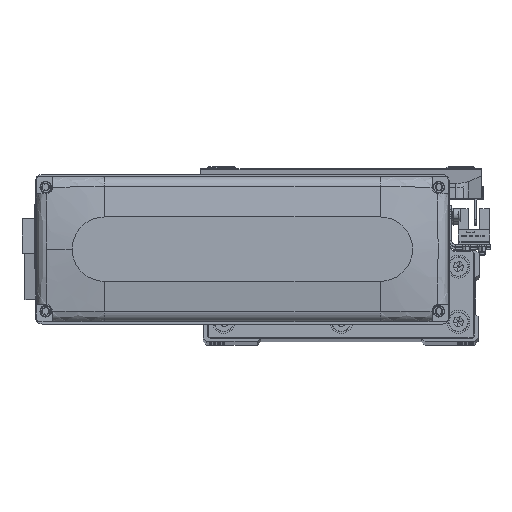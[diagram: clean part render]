
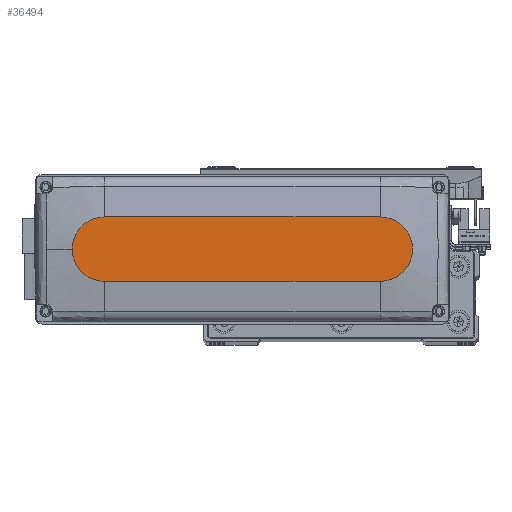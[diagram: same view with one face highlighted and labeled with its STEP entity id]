
A CAD part, top view. The second image highlights one B-rep face of the part: STEP entity #36494.
In plain terms, the highlighted planar face has unit normal (0, 0, 1).
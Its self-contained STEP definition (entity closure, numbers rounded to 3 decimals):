
#505 = VERTEX_POINT ( 'NONE', #39758 ) ;
#1925 = DIRECTION ( 'NONE',  ( 0., 0., 1. ) ) ;
#2989 = DIRECTION ( 'NONE',  ( 0., 0., 1. ) ) ;
#3057 = CARTESIAN_POINT ( 'NONE',  ( 60., -14., 28.5 ) ) ;
#3189 = DIRECTION ( 'NONE',  ( 1., 0., 0. ) ) ;
#3828 = EDGE_CURVE ( 'NONE', #505, #9682, #30655, .T. ) ;
#4432 = CIRCLE ( 'NONE', #30780, 14. ) ;
#4966 = CARTESIAN_POINT ( 'NONE',  ( 60., 14., 28.5 ) ) ;
#6729 = PLANE ( 'NONE',  #26315 ) ;
#6876 = VECTOR ( 'NONE', #13934, 1000. ) ;
#7180 = EDGE_LOOP ( 'NONE', ( #31363, #42075, #20670, #22269, #7959 ) ) ;
#7476 = CARTESIAN_POINT ( 'NONE',  ( 74., 0., 28.5 ) ) ;
#7959 = ORIENTED_EDGE ( 'NONE', *, *, #19544, .T. ) ;
#8087 = EDGE_CURVE ( 'NONE', #11793, #40844, #31841, .T. ) ;
#9682 = VERTEX_POINT ( 'NONE', #3057 ) ;
#11793 = VERTEX_POINT ( 'NONE', #4966 ) ;
#12355 = AXIS2_PLACEMENT_3D ( 'NONE', #14469, #28848, #43229 ) ;
#12746 = DIRECTION ( 'NONE',  ( 1., 0., 0. ) ) ;
#13046 = CIRCLE ( 'NONE', #39396, 14. ) ;
#13934 = DIRECTION ( 'NONE',  ( -1., 0., 0. ) ) ;
#14469 = CARTESIAN_POINT ( 'NONE',  ( -60., 0., 28.5 ) ) ;
#15044 = VERTEX_POINT ( 'NONE', #7476 ) ;
#16307 = DIRECTION ( 'NONE',  ( 1., 0., 0. ) ) ;
#17378 = DIRECTION ( 'NONE',  ( 1., 0., 0. ) ) ;
#19544 = EDGE_CURVE ( 'NONE', #15044, #11793, #13046, .T. ) ;
#20670 = ORIENTED_EDGE ( 'NONE', *, *, #3828, .T. ) ;
#21120 = CARTESIAN_POINT ( 'NONE',  ( 0., 0., 28.5 ) ) ;
#22269 = ORIENTED_EDGE ( 'NONE', *, *, #24991, .T. ) ;
#24991 = EDGE_CURVE ( 'NONE', #9682, #15044, #4432, .T. ) ;
#26315 = AXIS2_PLACEMENT_3D ( 'NONE', #21120, #35492, #3189 ) ;
#28848 = DIRECTION ( 'NONE',  ( 0., 0., 1. ) ) ;
#30655 = LINE ( 'NONE', #45027, #41301 ) ;
#30780 = AXIS2_PLACEMENT_3D ( 'NONE', #34223, #1925, #16307 ) ;
#30871 = CARTESIAN_POINT ( 'NONE',  ( -60., 14., 28.5 ) ) ;
#31363 = ORIENTED_EDGE ( 'NONE', *, *, #8087, .T. ) ;
#31841 = LINE ( 'NONE', #46215, #6876 ) ;
#32687 = CIRCLE ( 'NONE', #12355, 14. ) ;
#34223 = CARTESIAN_POINT ( 'NONE',  ( 60., 0., 28.5 ) ) ;
#35283 = CARTESIAN_POINT ( 'NONE',  ( 60., 0., 28.5 ) ) ;
#35492 = DIRECTION ( 'NONE',  ( 0., 0., 1. ) ) ;
#36494 = ADVANCED_FACE ( 'NONE', ( #39018 ), #6729, .T. ) ;
#39018 = FACE_OUTER_BOUND ( 'NONE', #7180, .T. ) ;
#39396 = AXIS2_PLACEMENT_3D ( 'NONE', #35283, #2989, #17378 ) ;
#39758 = CARTESIAN_POINT ( 'NONE',  ( -60., -14., 28.5 ) ) ;
#40844 = VERTEX_POINT ( 'NONE', #30871 ) ;
#41301 = VECTOR ( 'NONE', #12746, 1000. ) ;
#42075 = ORIENTED_EDGE ( 'NONE', *, *, #43228, .T. ) ;
#43228 = EDGE_CURVE ( 'NONE', #40844, #505, #32687, .T. ) ;
#43229 = DIRECTION ( 'NONE',  ( 1., 0., 0. ) ) ;
#45027 = CARTESIAN_POINT ( 'NONE',  ( -60., -14., 28.5 ) ) ;
#46215 = CARTESIAN_POINT ( 'NONE',  ( -60., 14., 28.5 ) ) ;
